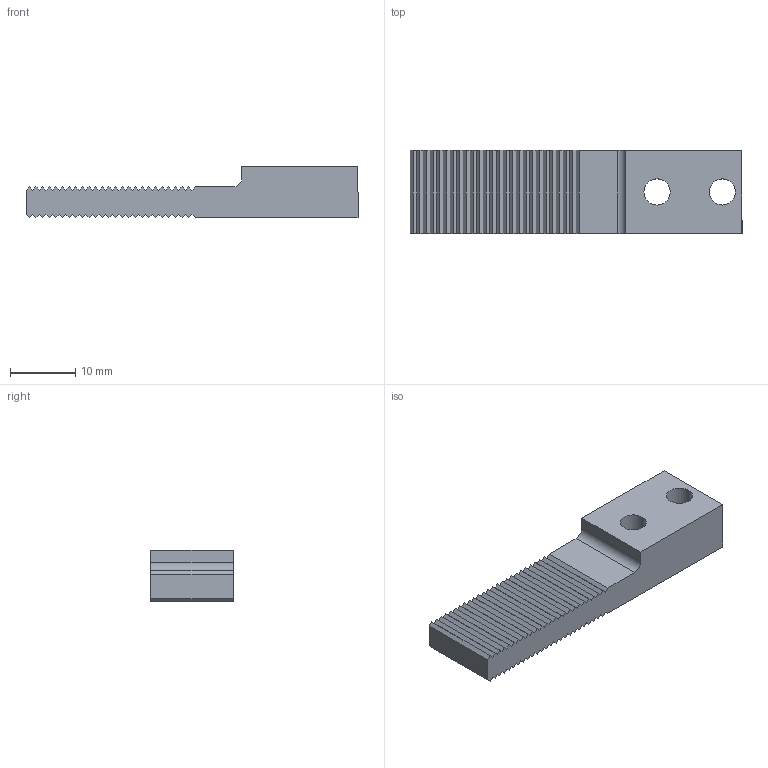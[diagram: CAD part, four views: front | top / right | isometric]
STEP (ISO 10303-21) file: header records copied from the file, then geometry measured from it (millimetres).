
FILE_DESCRIPTION (( 'STEP AP214' ), '1' );
FILE_NAME ('RTI-GF-20.STEP', '2013-10-22T14:12:03', ( 'user' ), ( '' ), 'SwSTEP 2.0', 'SolidWorks 2009', '' );
FILE_SCHEMA (( 'AUTOMOTIVE_DESIGN' ));
Length unit declared in the file: inch
Products named in the file (1): RTI-GF-20
Bounding box: 50.8 x 12.7 x 7.94 mm (x, y, z)
Volume: 3239 mm3; surface area: 2523.6 mm2
Topology: 1 solids, 1 shells, 350 faces, 957 edges, 638 vertices
Faces by surface type: plane 253, bspline 88, cylinder 9
Entity records: 19732 total; most frequent: CARTESIAN_POINT 8554, ORIENTED_EDGE 1914, DIRECTION 1337, EDGE_CURVE 957, LINE 751, VECTOR 751, VERTEX_POINT 638, EDGE_LOOP 383
